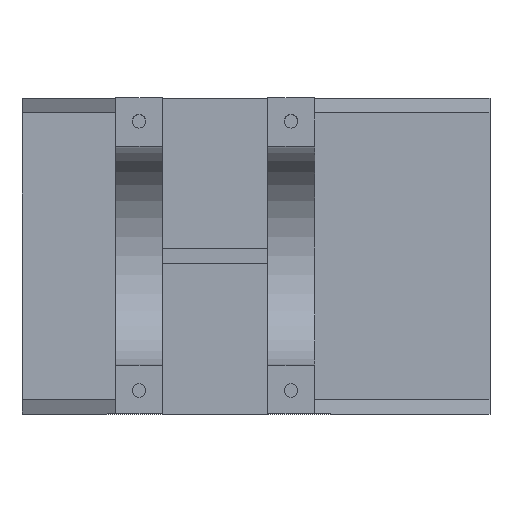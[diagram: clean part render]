
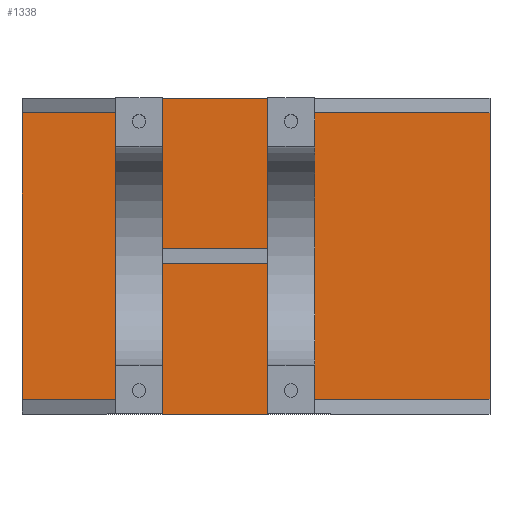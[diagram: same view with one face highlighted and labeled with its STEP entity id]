
A CAD part, top view. The second image highlights one B-rep face of the part: STEP entity #1338.
In plain terms, the highlighted planar face has unit normal (0, 0, 1).
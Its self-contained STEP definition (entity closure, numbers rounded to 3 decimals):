
#124=CARTESIAN_POINT('Vertex',(-16.,-24.5,2.5)) ;
#127=CARTESIAN_POINT('Line Origine',(-16.,0.,2.5)) ;
#131=CARTESIAN_POINT('Vertex',(-16.,24.5,2.5)) ;
#225=CARTESIAN_POINT('Vertex',(64.,24.5,2.5)) ;
#267=CARTESIAN_POINT('Vertex',(64.,-24.5,2.5)) ;
#395=CARTESIAN_POINT('Vertex',(26.,-1.25,2.5)) ;
#402=CARTESIAN_POINT('Vertex',(8.,-1.25,2.5)) ;
#405=CARTESIAN_POINT('Line Origine',(17.,-1.25,2.5)) ;
#422=CARTESIAN_POINT('Line Origine',(17.,1.25,2.5)) ;
#426=CARTESIAN_POINT('Vertex',(8.,1.25,2.5)) ;
#428=CARTESIAN_POINT('Vertex',(26.,1.25,2.5)) ;
#835=CARTESIAN_POINT('Vertex',(0.,-1.25,2.5)) ;
#866=CARTESIAN_POINT('Vertex',(0.,1.25,2.5)) ;
#869=CARTESIAN_POINT('Line Origine',(0.,0.,2.5)) ;
#894=CARTESIAN_POINT('Line Origine',(8.,25.75,2.5)) ;
#898=CARTESIAN_POINT('Vertex',(8.,27.,2.5)) ;
#900=CARTESIAN_POINT('Vertex',(8.,24.5,2.5)) ;
#912=CARTESIAN_POINT('Vertex',(8.,-27.,2.5)) ;
#915=CARTESIAN_POINT('Line Origine',(8.,-25.75,2.5)) ;
#919=CARTESIAN_POINT('Vertex',(8.,-24.5,2.5)) ;
#968=CARTESIAN_POINT('Line Origine',(34.,0.,2.5)) ;
#972=CARTESIAN_POINT('Vertex',(34.,1.25,2.5)) ;
#974=CARTESIAN_POINT('Vertex',(34.,-1.25,2.5)) ;
#1035=CARTESIAN_POINT('Vertex',(26.,24.5,2.5)) ;
#1056=CARTESIAN_POINT('Vertex',(26.,-24.5,2.5)) ;
#1059=CARTESIAN_POINT('Line Origine',(26.,-25.75,2.5)) ;
#1063=CARTESIAN_POINT('Vertex',(26.,-27.,2.5)) ;
#1075=CARTESIAN_POINT('Vertex',(26.,27.,2.5)) ;
#1078=CARTESIAN_POINT('Line Origine',(26.,25.75,2.5)) ;
#1110=CARTESIAN_POINT('Line Origine',(4.,-1.25,2.5)) ;
#1122=CARTESIAN_POINT('Line Origine',(30.,-1.25,2.5)) ;
#1149=CARTESIAN_POINT('Line Origine',(30.,1.25,2.5)) ;
#1161=CARTESIAN_POINT('Line Origine',(4.,1.25,2.5)) ;
#1193=CARTESIAN_POINT('Line Origine',(64.,0.,2.5)) ;
#1212=CARTESIAN_POINT('Line Origine',(17.,-27.,2.5)) ;
#1237=CARTESIAN_POINT('Line Origine',(17.,27.,2.5)) ;
#1257=CARTESIAN_POINT('Axis2P3D Location',(0.,-1.25,2.5)) ;
#1262=CARTESIAN_POINT('Line Origine',(4.,24.5,2.5)) ;
#1266=CARTESIAN_POINT('Vertex',(0.,24.5,2.5)) ;
#1269=CARTESIAN_POINT('Line Origine',(-8.,24.5,2.5)) ;
#1274=CARTESIAN_POINT('Line Origine',(-8.,-24.5,2.5)) ;
#1278=CARTESIAN_POINT('Vertex',(0.,-24.5,2.5)) ;
#1281=CARTESIAN_POINT('Line Origine',(4.,-24.5,2.5)) ;
#1286=CARTESIAN_POINT('Line Origine',(30.,-24.5,2.5)) ;
#1290=CARTESIAN_POINT('Vertex',(34.,-24.5,2.5)) ;
#1293=CARTESIAN_POINT('Line Origine',(49.,-24.5,2.5)) ;
#1298=CARTESIAN_POINT('Line Origine',(49.,24.5,2.5)) ;
#1302=CARTESIAN_POINT('Vertex',(34.,24.5,2.5)) ;
#1305=CARTESIAN_POINT('Line Origine',(30.,24.5,2.5)) ;
#128=DIRECTION('Vector Direction',(0.,-1.,0.)) ;
#406=DIRECTION('Vector Direction',(-1.,0.,0.)) ;
#423=DIRECTION('Vector Direction',(-1.,0.,0.)) ;
#870=DIRECTION('Vector Direction',(0.,-1.,0.)) ;
#895=DIRECTION('Vector Direction',(0.,-1.,0.)) ;
#916=DIRECTION('Vector Direction',(0.,-1.,0.)) ;
#969=DIRECTION('Vector Direction',(0.,-1.,0.)) ;
#1060=DIRECTION('Vector Direction',(0.,-1.,0.)) ;
#1079=DIRECTION('Vector Direction',(0.,-1.,0.)) ;
#1111=DIRECTION('Vector Direction',(1.,0.,0.)) ;
#1123=DIRECTION('Vector Direction',(1.,0.,0.)) ;
#1150=DIRECTION('Vector Direction',(1.,0.,0.)) ;
#1162=DIRECTION('Vector Direction',(1.,0.,0.)) ;
#1194=DIRECTION('Vector Direction',(0.,1.,0.)) ;
#1213=DIRECTION('Vector Direction',(1.,0.,0.)) ;
#1238=DIRECTION('Vector Direction',(1.,0.,0.)) ;
#1258=DIRECTION('Axis2P3D Direction',(-0.,0.,1.)) ;
#1259=DIRECTION('Axis2P3D XDirection',(0.,-1.,0.)) ;
#1263=DIRECTION('Vector Direction',(1.,0.,0.)) ;
#1270=DIRECTION('Vector Direction',(-1.,0.,0.)) ;
#1275=DIRECTION('Vector Direction',(-1.,0.,0.)) ;
#1282=DIRECTION('Vector Direction',(1.,0.,0.)) ;
#1287=DIRECTION('Vector Direction',(1.,0.,0.)) ;
#1294=DIRECTION('Vector Direction',(-1.,0.,0.)) ;
#1299=DIRECTION('Vector Direction',(-1.,0.,0.)) ;
#1306=DIRECTION('Vector Direction',(1.,0.,0.)) ;
#1260=AXIS2_PLACEMENT_3D('Plane Axis2P3D',#1257,#1258,#1259) ;
#1311=ORIENTED_EDGE('',*,*,#1082,.F.) ;
#1312=ORIENTED_EDGE('',*,*,#1241,.T.) ;
#1313=ORIENTED_EDGE('',*,*,#902,.T.) ;
#1314=ORIENTED_EDGE('',*,*,#1268,.F.) ;
#1315=ORIENTED_EDGE('',*,*,#1273,.T.) ;
#1316=ORIENTED_EDGE('',*,*,#133,.T.) ;
#1317=ORIENTED_EDGE('',*,*,#1280,.F.) ;
#1318=ORIENTED_EDGE('',*,*,#1285,.T.) ;
#1319=ORIENTED_EDGE('',*,*,#921,.T.) ;
#1320=ORIENTED_EDGE('',*,*,#1216,.T.) ;
#1321=ORIENTED_EDGE('',*,*,#1065,.F.) ;
#1322=ORIENTED_EDGE('',*,*,#1292,.T.) ;
#1323=ORIENTED_EDGE('',*,*,#1297,.F.) ;
#1324=ORIENTED_EDGE('',*,*,#1197,.T.) ;
#1325=ORIENTED_EDGE('',*,*,#1304,.T.) ;
#1326=ORIENTED_EDGE('',*,*,#1309,.F.) ;
#1329=ORIENTED_EDGE('',*,*,#1165,.T.) ;
#1330=ORIENTED_EDGE('',*,*,#430,.T.) ;
#1331=ORIENTED_EDGE('',*,*,#1153,.T.) ;
#1332=ORIENTED_EDGE('',*,*,#976,.T.) ;
#1333=ORIENTED_EDGE('',*,*,#1126,.F.) ;
#1334=ORIENTED_EDGE('',*,*,#409,.F.) ;
#1335=ORIENTED_EDGE('',*,*,#1114,.F.) ;
#1336=ORIENTED_EDGE('',*,*,#873,.F.) ;
#1337=FACE_BOUND('',#1328,.T.) ;
#129=VECTOR('Line Direction',#128,1.) ;
#407=VECTOR('Line Direction',#406,1.) ;
#424=VECTOR('Line Direction',#423,1.) ;
#871=VECTOR('Line Direction',#870,1.) ;
#896=VECTOR('Line Direction',#895,1.) ;
#917=VECTOR('Line Direction',#916,1.) ;
#970=VECTOR('Line Direction',#969,1.) ;
#1061=VECTOR('Line Direction',#1060,1.) ;
#1080=VECTOR('Line Direction',#1079,1.) ;
#1112=VECTOR('Line Direction',#1111,1.) ;
#1124=VECTOR('Line Direction',#1123,1.) ;
#1151=VECTOR('Line Direction',#1150,1.) ;
#1163=VECTOR('Line Direction',#1162,1.) ;
#1195=VECTOR('Line Direction',#1194,1.) ;
#1214=VECTOR('Line Direction',#1213,1.) ;
#1239=VECTOR('Line Direction',#1238,1.) ;
#1264=VECTOR('Line Direction',#1263,1.) ;
#1271=VECTOR('Line Direction',#1270,1.) ;
#1276=VECTOR('Line Direction',#1275,1.) ;
#1283=VECTOR('Line Direction',#1282,1.) ;
#1288=VECTOR('Line Direction',#1287,1.) ;
#1295=VECTOR('Line Direction',#1294,1.) ;
#1300=VECTOR('Line Direction',#1299,1.) ;
#1307=VECTOR('Line Direction',#1306,1.) ;
#1338=ADVANCED_FACE('PartBody',(#1327,#1337),#1261,.T.) ;
#133=EDGE_CURVE('',#132,#125,#130,.T.) ;
#409=EDGE_CURVE('',#403,#396,#408,.F.) ;
#430=EDGE_CURVE('',#427,#429,#425,.F.) ;
#873=EDGE_CURVE('',#867,#836,#872,.T.) ;
#902=EDGE_CURVE('',#899,#901,#897,.T.) ;
#921=EDGE_CURVE('',#920,#913,#918,.T.) ;
#976=EDGE_CURVE('',#973,#975,#971,.T.) ;
#1065=EDGE_CURVE('',#1057,#1064,#1062,.T.) ;
#1082=EDGE_CURVE('',#1076,#1036,#1081,.T.) ;
#1114=EDGE_CURVE('',#836,#403,#1113,.T.) ;
#1126=EDGE_CURVE('',#396,#975,#1125,.T.) ;
#1153=EDGE_CURVE('',#429,#973,#1152,.T.) ;
#1165=EDGE_CURVE('',#867,#427,#1164,.T.) ;
#1197=EDGE_CURVE('',#268,#226,#1196,.T.) ;
#1216=EDGE_CURVE('',#913,#1064,#1215,.T.) ;
#1241=EDGE_CURVE('',#1076,#899,#1240,.F.) ;
#1268=EDGE_CURVE('',#1267,#901,#1265,.T.) ;
#1273=EDGE_CURVE('',#1267,#132,#1272,.T.) ;
#1280=EDGE_CURVE('',#1279,#125,#1277,.T.) ;
#1285=EDGE_CURVE('',#1279,#920,#1284,.T.) ;
#1292=EDGE_CURVE('',#1057,#1291,#1289,.T.) ;
#1297=EDGE_CURVE('',#268,#1291,#1296,.T.) ;
#1304=EDGE_CURVE('',#226,#1303,#1301,.T.) ;
#1309=EDGE_CURVE('',#1036,#1303,#1308,.T.) ;
#1310=EDGE_LOOP('',(#1311,#1312,#1313,#1314,#1315,#1316,#1317,#1318,#1319,#1320,#1321,#1322,#1323,#1324,#1325,#1326)) ;
#1328=EDGE_LOOP('',(#1329,#1330,#1331,#1332,#1333,#1334,#1335,#1336)) ;
#1327=FACE_OUTER_BOUND('',#1310,.T.) ;
#130=LINE('Line',#127,#129) ;
#408=LINE('Line',#405,#407) ;
#425=LINE('Line',#422,#424) ;
#872=LINE('Line',#869,#871) ;
#897=LINE('Line',#894,#896) ;
#918=LINE('Line',#915,#917) ;
#971=LINE('Line',#968,#970) ;
#1062=LINE('Line',#1059,#1061) ;
#1081=LINE('Line',#1078,#1080) ;
#1113=LINE('Line',#1110,#1112) ;
#1125=LINE('Line',#1122,#1124) ;
#1152=LINE('Line',#1149,#1151) ;
#1164=LINE('Line',#1161,#1163) ;
#1196=LINE('Line',#1193,#1195) ;
#1215=LINE('Line',#1212,#1214) ;
#1240=LINE('Line',#1237,#1239) ;
#1265=LINE('Line',#1262,#1264) ;
#1272=LINE('Line',#1269,#1271) ;
#1277=LINE('Line',#1274,#1276) ;
#1284=LINE('Line',#1281,#1283) ;
#1289=LINE('Line',#1286,#1288) ;
#1296=LINE('Line',#1293,#1295) ;
#1301=LINE('Line',#1298,#1300) ;
#1308=LINE('Line',#1305,#1307) ;
#1261=PLANE('Plane',#1260) ;
#125=VERTEX_POINT('',#124) ;
#132=VERTEX_POINT('',#131) ;
#226=VERTEX_POINT('',#225) ;
#268=VERTEX_POINT('',#267) ;
#396=VERTEX_POINT('',#395) ;
#403=VERTEX_POINT('',#402) ;
#427=VERTEX_POINT('',#426) ;
#429=VERTEX_POINT('',#428) ;
#836=VERTEX_POINT('',#835) ;
#867=VERTEX_POINT('',#866) ;
#899=VERTEX_POINT('',#898) ;
#901=VERTEX_POINT('',#900) ;
#913=VERTEX_POINT('',#912) ;
#920=VERTEX_POINT('',#919) ;
#973=VERTEX_POINT('',#972) ;
#975=VERTEX_POINT('',#974) ;
#1036=VERTEX_POINT('',#1035) ;
#1057=VERTEX_POINT('',#1056) ;
#1064=VERTEX_POINT('',#1063) ;
#1076=VERTEX_POINT('',#1075) ;
#1267=VERTEX_POINT('',#1266) ;
#1279=VERTEX_POINT('',#1278) ;
#1291=VERTEX_POINT('',#1290) ;
#1303=VERTEX_POINT('',#1302) ;
